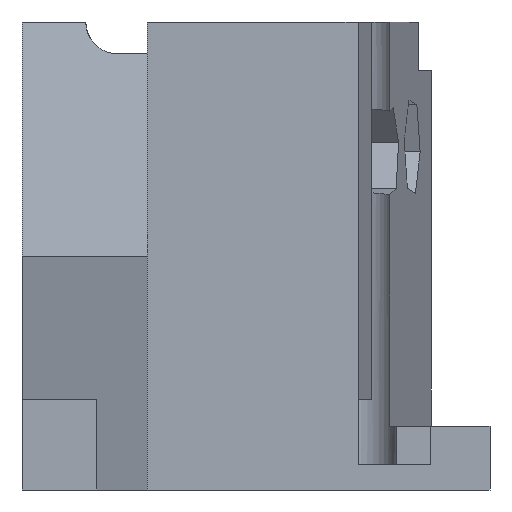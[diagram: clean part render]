
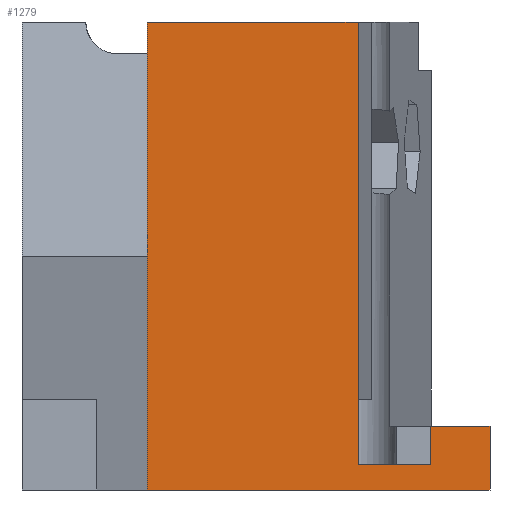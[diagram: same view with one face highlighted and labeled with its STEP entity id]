
A CAD part, left-side view. The second image highlights one B-rep face of the part: STEP entity #1279.
In plain terms, the highlighted planar face has unit normal (-1, 0, 0).
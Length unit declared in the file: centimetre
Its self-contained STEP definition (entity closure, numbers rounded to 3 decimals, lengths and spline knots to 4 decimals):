
#4 = CARTESIAN_POINT ( 'NONE',  ( 0., 127.0765, 54.9066 ) ) ;
#14 = DIRECTION ( 'NONE',  ( 0., -1., 0. ) ) ;
#27 = EDGE_CURVE ( 'NONE', #678, #271, #1605, .T. ) ;
#72 = LINE ( 'NONE', #819, #1467 ) ;
#88 = LINE ( 'NONE', #1562, #896 ) ;
#108 = DIRECTION ( 'NONE',  ( 0., 0., 1. ) ) ;
#131 = VECTOR ( 'NONE', #684, 100. ) ;
#229 = VECTOR ( 'NONE', #1169, 100. ) ;
#271 = VERTEX_POINT ( 'NONE', #1304 ) ;
#279 = EDGE_CURVE ( 'NONE', #525, #1596, #88, .T. ) ;
#286 = CARTESIAN_POINT ( 'NONE',  ( 0., 281.9574, 54.9066 ) ) ;
#304 = VERTEX_POINT ( 'NONE', #1569 ) ;
#339 = CARTESIAN_POINT ( 'NONE',  ( 0., 127.0765, 54.9066 ) ) ;
#408 = ORIENTED_EDGE ( 'NONE', *, *, #279, .T. ) ;
#439 = ORIENTED_EDGE ( 'NONE', *, *, #1626, .F. ) ;
#481 = ORIENTED_EDGE ( 'NONE', *, *, #1278, .F. ) ;
#513 = DIRECTION ( 'NONE',  ( 1., 0., 0. ) ) ;
#525 = VERTEX_POINT ( 'NONE', #695 ) ;
#582 = AXIS2_PLACEMENT_3D ( 'NONE', #1736, #513, #1471 ) ;
#632 = LINE ( 'NONE', #1585, #634 ) ;
#634 = VECTOR ( 'NONE', #1512, 100. ) ;
#643 = FACE_OUTER_BOUND ( 'NONE', #1104, .T. ) ;
#658 = DIRECTION ( 'NONE',  ( 0., 0., -1. ) ) ;
#678 = VERTEX_POINT ( 'NONE', #1170 ) ;
#684 = DIRECTION ( 'NONE',  ( 0., -1., 0. ) ) ;
#691 = DIRECTION ( 'NONE',  ( 0., 0., 1. ) ) ;
#695 = CARTESIAN_POINT ( 'NONE',  ( 0., 281.9574, 193.9243 ) ) ;
#738 = LINE ( 'NONE', #1369, #131 ) ;
#803 = CARTESIAN_POINT ( 'NONE',  ( 0., 281.9574, 54.9066 ) ) ;
#816 = VECTOR ( 'NONE', #658, 100. ) ;
#819 = CARTESIAN_POINT ( 'NONE',  ( 0., 281.9574, 136.6885 ) ) ;
#837 = EDGE_CURVE ( 'NONE', #525, #1435, #1321, .T. ) ;
#862 = LINE ( 'NONE', #339, #969 ) ;
#896 = VECTOR ( 'NONE', #1436, 100. ) ;
#902 = CARTESIAN_POINT ( 'NONE',  ( 0., 127.0765, 136.6885 ) ) ;
#923 = CARTESIAN_POINT ( 'NONE',  ( 0., 732.1945, 0. ) ) ;
#936 = VERTEX_POINT ( 'NONE', #1106 ) ;
#969 = VECTOR ( 'NONE', #691, 100. ) ;
#981 = VECTOR ( 'NONE', #1094, 100. ) ;
#1094 = DIRECTION ( 'NONE',  ( 0., -1., 0. ) ) ;
#1104 = EDGE_LOOP ( 'NONE', ( #1309, #408, #1185, #481, #1710, #1215, #1339, #1691, #439 ) ) ;
#1106 = CARTESIAN_POINT ( 'NONE',  ( 0., 0., 136.6885 ) ) ;
#1123 = EDGE_CURVE ( 'NONE', #936, #271, #1299, .T. ) ;
#1169 = DIRECTION ( 'NONE',  ( 0., 0., -1. ) ) ;
#1170 = CARTESIAN_POINT ( 'NONE',  ( 0., 732.1945, 0. ) ) ;
#1185 = ORIENTED_EDGE ( 'NONE', *, *, #1367, .F. ) ;
#1187 = PLANE ( 'NONE',  #582 ) ;
#1215 = ORIENTED_EDGE ( 'NONE', *, *, #1123, .F. ) ;
#1257 = VECTOR ( 'NONE', #108, 100. ) ;
#1278 = EDGE_CURVE ( 'NONE', #678, #304, #1587, .T. ) ;
#1279 = ADVANCED_FACE ( 'NONE', ( #643 ), #1187, .F. ) ;
#1280 = CARTESIAN_POINT ( 'NONE',  ( 0., 0., 1000. ) ) ;
#1299 = LINE ( 'NONE', #1280, #229 ) ;
#1304 = CARTESIAN_POINT ( 'NONE',  ( 0., 0., 0. ) ) ;
#1309 = ORIENTED_EDGE ( 'NONE', *, *, #837, .F. ) ;
#1321 = LINE ( 'NONE', #803, #816 ) ;
#1331 = EDGE_CURVE ( 'NONE', #1402, #1531, #862, .T. ) ;
#1339 = ORIENTED_EDGE ( 'NONE', *, *, #1437, .F. ) ;
#1367 = EDGE_CURVE ( 'NONE', #304, #1596, #738, .T. ) ;
#1369 = CARTESIAN_POINT ( 'NONE',  ( 0., 1000., 1000. ) ) ;
#1402 = VERTEX_POINT ( 'NONE', #4 ) ;
#1435 = VERTEX_POINT ( 'NONE', #286 ) ;
#1436 = DIRECTION ( 'NONE',  ( 0., 0., 1. ) ) ;
#1437 = EDGE_CURVE ( 'NONE', #1531, #936, #72, .T. ) ;
#1450 = CARTESIAN_POINT ( 'NONE',  ( 0., 281.9574, 1000. ) ) ;
#1467 = VECTOR ( 'NONE', #14, 100. ) ;
#1471 = DIRECTION ( 'NONE',  ( 0., 0., -1. ) ) ;
#1476 = CARTESIAN_POINT ( 'NONE',  ( 0., 1000., 0. ) ) ;
#1512 = DIRECTION ( 'NONE',  ( 0., -1., 0. ) ) ;
#1531 = VERTEX_POINT ( 'NONE', #902 ) ;
#1562 = CARTESIAN_POINT ( 'NONE',  ( 0., 281.9574, 136.6885 ) ) ;
#1569 = CARTESIAN_POINT ( 'NONE',  ( 0., 732.1945, 1000. ) ) ;
#1585 = CARTESIAN_POINT ( 'NONE',  ( 0., 127.0765, 54.9066 ) ) ;
#1587 = LINE ( 'NONE', #923, #1257 ) ;
#1596 = VERTEX_POINT ( 'NONE', #1450 ) ;
#1605 = LINE ( 'NONE', #1476, #981 ) ;
#1626 = EDGE_CURVE ( 'NONE', #1435, #1402, #632, .T. ) ;
#1691 = ORIENTED_EDGE ( 'NONE', *, *, #1331, .F. ) ;
#1710 = ORIENTED_EDGE ( 'NONE', *, *, #27, .T. ) ;
#1736 = CARTESIAN_POINT ( 'NONE',  ( 0., 1000., 1000. ) ) ;
